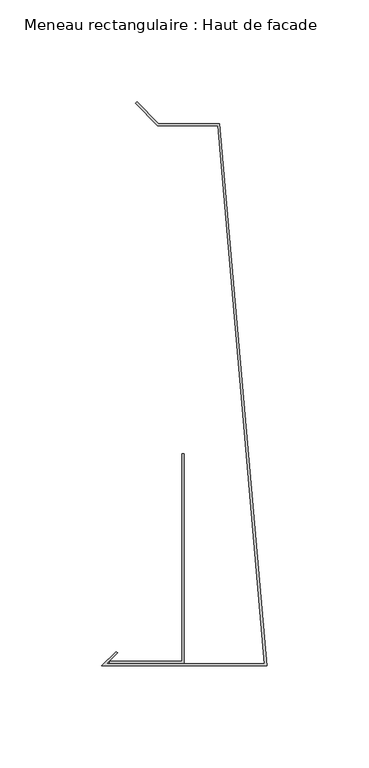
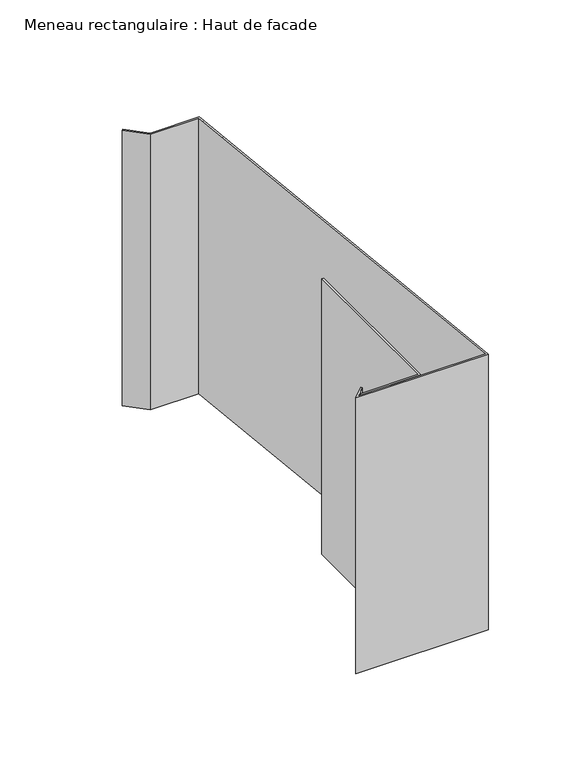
"""IFC4 building model written with IfcOpenShell, lengths in millimetres: member geometry, Meneau rectangulaire : Haut de facade."""

from ifc_helpers import new_model, si_unit, frame, origin, place, context, project, spatial, polyline, outline, extrude, source, transform, mapped, element, save


def meneau_rectangulaire_haut_de_facade_f870d6d4(model_context):
    return source(origin(), model_context, "Body", "SweptSolid", [
        extrude(outline(polyline([(-24.0647895, 160.703755), (-53.5626719, 160.703755), (-64.4621669, 171.6032499), (-63.7550601, 172.3103567), (-53.1484584, 161.703755), (-23.1484584, 161.703755), (0.0, -104.2), (-81.0, -104.2), (-73.9289322, -97.1289322), (-73.2218254, -97.836039), (-78.5857864, -103.2), (-1.0913085, -103.2), (-24.0647895, 160.703755)])), frame((0.0, 0.0, -178.0), z_axis=(0.0, 0.0, 1.0), x_axis=(1.0, 0.0, 0.0)), (0.0, 0.0, 1.0), 178.0),
        extrude(outline(polyline([(-40.5477541, -102.9846816), (-77.0752814, -102.9846816), (-77.0752814, -101.9846816), (-41.5477541, -101.9846816), (-41.5477541, -0.0384227), (-40.5477541, -0.0384227), (-40.5477541, -102.9846816)])), frame((0.0, 0.0, -178.0), z_axis=(0.0, 0.0, 1.0), x_axis=(1.0, 0.0, 0.0)), (0.0, 0.0, 1.0), 178.0),
    ])


if __name__ == "__main__":
    model = new_model("IFC4")
    model_context = context("Model", 3, world=origin())
    ifc_project = project(units=[si_unit("LENGTHUNIT", "METRE", prefix="MILLI")], contexts=[model_context])
    site = spatial("IfcSite", under=ifc_project)
    building = spatial("IfcBuilding", under=site)
    placement = place(None, origin())
    meneau_rectangulaire_haut_de_facade_shape = meneau_rectangulaire_haut_de_facade_f870d6d4(model_context)
    element("IfcMember", 1, ObjectType="Meneau rectangulaire : Haut de facade", at=placement, inside=building, context=model_context, shape_type="MappedRepresentation", body=[
        mapped(meneau_rectangulaire_haut_de_facade_shape, transform((0.0, 0.0, 0.0), x_axis=(1.0, 0.0, 0.0), y_axis=(0.0, 1.0, 0.0), z_axis=(0.0, 0.0, 1.0))),
    ])
    save(model, "model.ifc")
